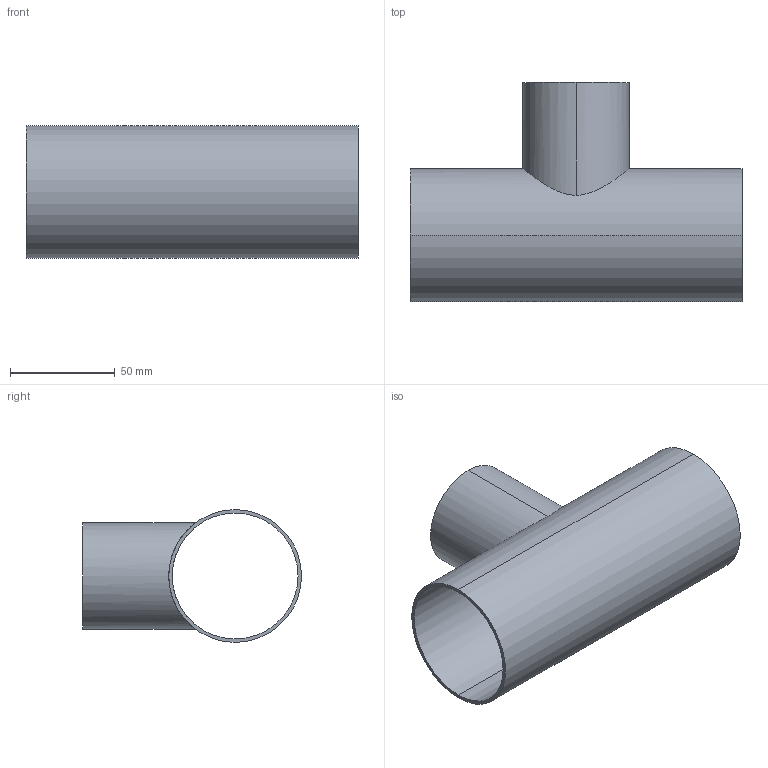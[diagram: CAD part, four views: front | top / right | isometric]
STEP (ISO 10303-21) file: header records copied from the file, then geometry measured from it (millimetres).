
FILE_DESCRIPTION (( 'STEP AP214' ), '1' );
FILE_NAME ('TE7RWWW6L2.5x2.0-...STEP', '2016-05-24T04:19:36', ( 'eran' ), ( '' ), 'SwSTEP 2.0', 'SolidWorks 2016', '' );
FILE_SCHEMA (( 'AUTOMOTIVE_DESIGN' ));
Length unit declared in the file: millimetre
Products named in the file (1): TE7RWWW6L2.5x2.0-..
Bounding box: 158.8 x 104.75 x 63.5 mm (x, y, z)
Volume: 59611.9 mm3; surface area: 73147.3 mm2
Topology: 1 solids, 1 shells, 11 faces, 24 edges, 16 vertices
Faces by surface type: cylinder 8, plane 3
Entity records: 606 total; most frequent: CARTESIAN_POINT 314, DIRECTION 56, ORIENTED_EDGE 48, AXIS2_PLACEMENT_3D 24, EDGE_CURVE 24, EDGE_LOOP 16, VERTEX_POINT 16, CIRCLE 12
